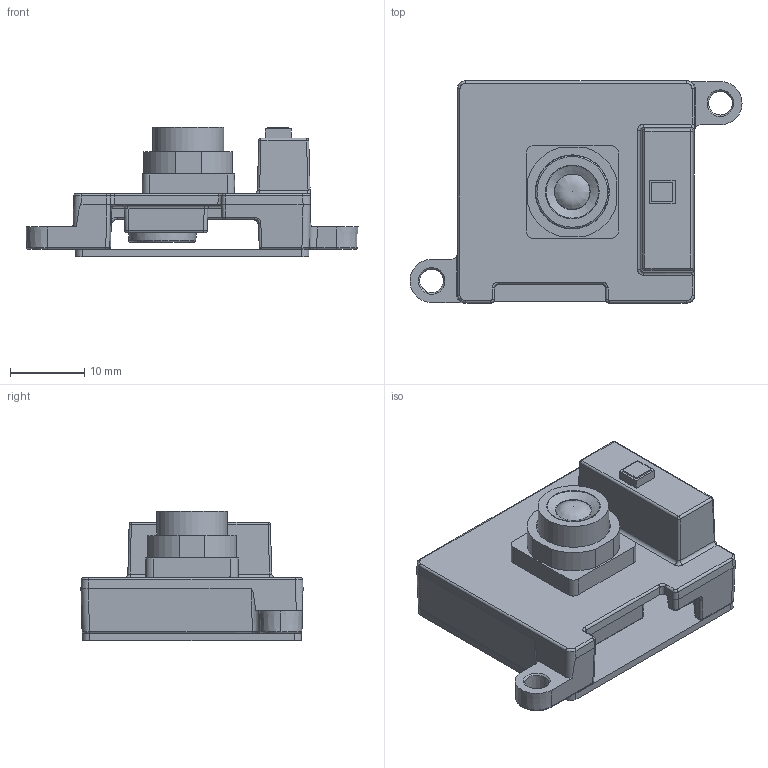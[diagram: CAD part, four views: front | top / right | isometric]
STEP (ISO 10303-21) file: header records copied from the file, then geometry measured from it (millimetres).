
FILE_DESCRIPTION(('HOOPS Exchange Step'),'2;1');
FILE_NAME('/var/folders/qs/32zlx2dn71v0vg8_dgdjwyt00000gn/T/com.shapr3d.shapr/export/temp_export','2021-05-21T14:06:24+03:00',('Szilard'),('Shapr3D Limited'),'HOOPS Exchange 2021.1','Shapr3D','Authorized');
FILE_SCHEMA( ('AP203_CONFIGURATION_CONTROLLED_3D_DESIGN_OF_MECHANICAL_PARTS_AND_ASSEMBLIES_MIM_LF') );
Length unit declared in the file: millimetre
Products named in the file (5): 0; /var/folders/qs/32zlx2dn71v0vg8_dgdjwyt00000gn/T/com.shapr3d.shapr/355907EE-A523-491A-B6A4-BCDDD88E2147.tmp
Assembly tree (4 placements, depth 3):
  /var/folders/qs/32zlx2dn71v0vg8_dgdjwyt00000gn/T/com.shapr3d.shapr/355907EE-A523-491A-B6A4-BCDDD88E2147.tmp
    0
      0
      0
      0
Bounding box: 44.84 x 30 x 17.44 mm (x, y, z)
Volume: 5655.8 mm3; surface area: 6908.8 mm2
Topology: 3 solids, 3 shells, 426 faces, 1083 edges, 652 vertices
Faces by surface type: cylinder 174, plane 117, bspline 76, cone 35, torus 15, sphere 9
Full cylindrical faces by diameter (mm): 5 x1, 7.253 x1, 9.55 x4, 10 x1
Entity records: 30930 total; most frequent: CARTESIAN_POINT 21436, ORIENTED_EDGE 2128, DIRECTION 1729, EDGE_CURVE 1064, VERTEX_POINT 652, AXIS2_PLACEMENT_3D 637, VECTOR 455, LINE 455
